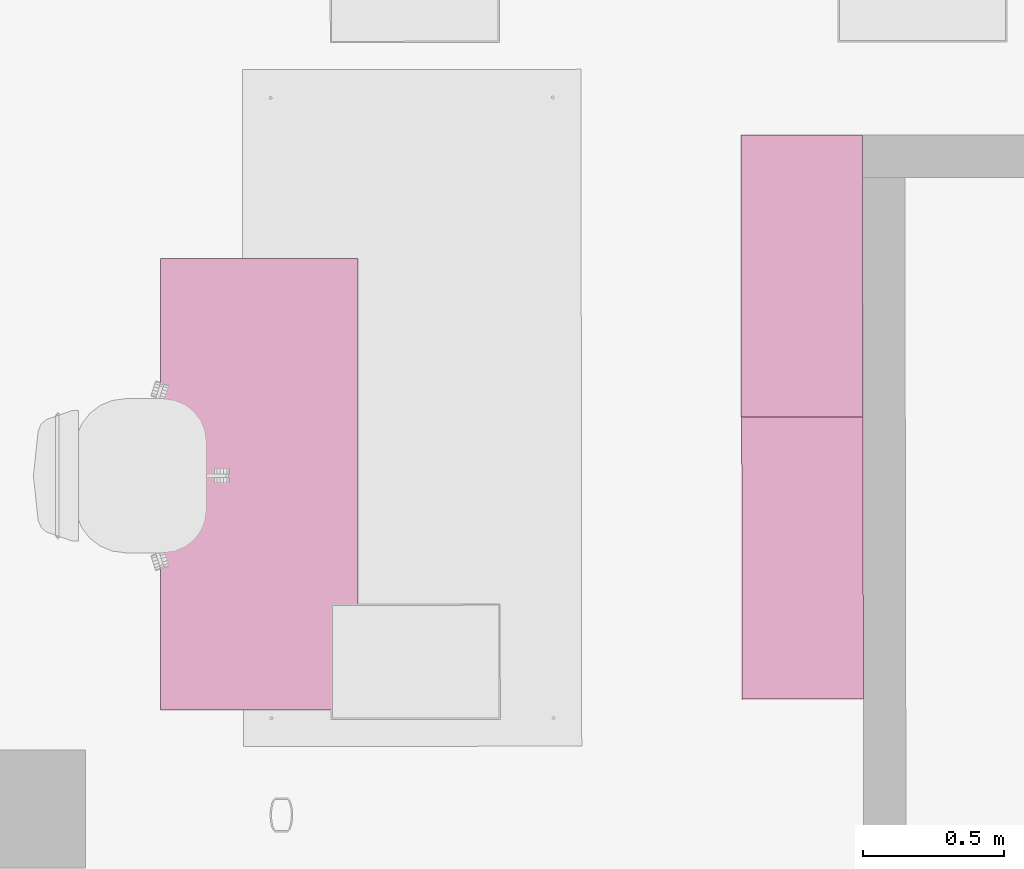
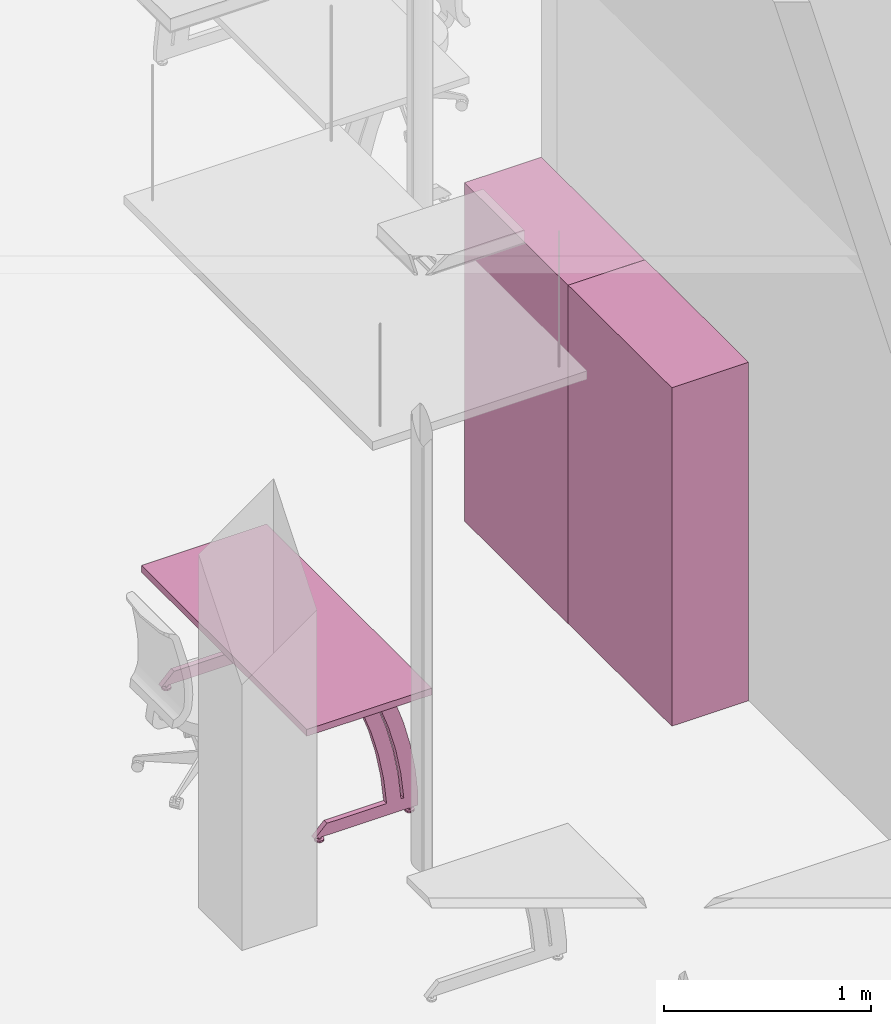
# One storey, part 119 of 128: 3 furnishings.
"""IFC2X3 building model written with IfcOpenShell, lengths in metres."""

from ifc_helpers import new_model, entity, si_unit, converted_unit, derived_unit, direction, frame, origin, origin_2d_with_axis, place, context, subcontext, project, spatial, rectangle, extrude, faceted_brep, source, transform, mapped, material, type_object, type_shapes, element, save


model = new_model("IFC2X3")

# Units and contexts
model_context = context("Model", 3, precision=1e-05, world=origin(), true_north=direction((6.123031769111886e-17, 1.0)))
body_context = subcontext(model_context, "Body", "Model", "MODEL_VIEW")
ifc_project = project(units=[si_unit("LENGTHUNIT", "METRE"), si_unit("AREAUNIT", "SQUARE_METRE"), converted_unit("PLANEANGLEUNIT", "DEGREE", entity("IfcPlaneAngleMeasure", 0.017453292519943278), si_unit("PLANEANGLEUNIT", "RADIAN"), dimensions=[0, 0, 0, 0, 0, 0, 0]), derived_unit("THERMALTRANSMITTANCEUNIT", [(si_unit("MASSUNIT", "GRAM", prefix="KILO"), 1), (si_unit("THERMODYNAMICTEMPERATUREUNIT", "KELVIN"), -1), (si_unit("TIMEUNIT", "SECOND"), -3)])], contexts=[model_context])

# Site, building, storey
site_placement = place(None, origin())
site = spatial("IfcSite", under=ifc_project, at=site_placement, Name="Default", CompositionType="ELEMENT")
building_placement = place(site_placement, origin())
building = spatial("IfcBuilding", under=site, at=building_placement, CompositionType="ELEMENT")
storey_placement = place(building_placement, origin())
storey = spatial("IfcBuildingStorey", under=building, at=storey_placement, Name="00_RDC CAF", CompositionType="ELEMENT", Elevation=2.4982504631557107e-13)

# Furnishings
ifc_material = material(Name="ARC - Mo - Blanc")
furniture_type_1 = type_object("IfcFurnitureType", Name="Mo_Armoire_Porte_Coulissante:Mo_Armoire_Haute_1000x430x2000mm", AssemblyPlace="NOTDEFINED", material=ifc_material)
shared_shape_1 = source(origin(), body_context, "Body", "SweptSolid", [
    extrude(rectangle(XDim=0.9999999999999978, YDim=0.4300000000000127, at=origin_2d_with_axis()), frame((0.04470032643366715, -0.2150000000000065, 0.0), z_axis=(0.0, 0.0, 1.0), x_axis=(-1.0, 0.0, 0.0)), (0.0, 0.0, 1.0), 2.0),
])
type_shapes(furniture_type_1, [shared_shape_1])
for number, where, z_axis, x_axis, name in (
    (1, (45.680403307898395, 138.46699864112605, 0.0), (0.0, 0.0, 1.0), (0.0, -1.0, 0.0), "Mo_Armoire_Porte_Coulissante:Mo_Armoire_Haute_1000x430x2000mm"),
    (2, (45.68290519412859, 137.46700226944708, 0.0), (0.0, 0.0, 1.0), (0.0017191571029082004, -0.999998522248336, 0.0), "Mo_Armoire_Porte_Coulissante:Mo_Armoire_Haute_1000x430x2000mm"),
):
    element("IfcFurnishingElement", number, at=place(storey_placement, frame(where, z_axis=z_axis, x_axis=x_axis)), inside=storey, type_object=furniture_type_1, material=ifc_material, Name=name, ObjectType="Mo_Armoire_Porte_Coulissante:Mo_Armoire_Haute_1000x430x2000mm", context=body_context, shape_type="MappedRepresentation", body=[
        mapped(shared_shape_1, transform((0.0, 0.0, 0.0), scale=1.0)),
    ])
furniture_type_2 = type_object("IfcFurnitureType", Name="Mo_Bureau:Mo_Bureau_1600x700mm", AssemblyPlace="NOTDEFINED", material=ifc_material)
shared_shape_2 = source(origin(), body_context, "Body", "Brep", [
    faceted_brep([(0.0599999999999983, -0.5962325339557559, 0.0), (0.03622358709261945, -0.5885071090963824, 0.0), (0.040764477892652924, -0.5822571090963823, 0.0), (0.04530536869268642, -0.5760071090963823, 0.0), (0.0526526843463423, -0.5736198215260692, 0.0), (0.059999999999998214, -0.571232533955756, 0.0), (0.06734731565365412, -0.573619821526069, 0.0), (0.036223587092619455, -0.596232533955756, 0.0), (0.03622358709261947, -0.6039579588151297, 0.0), (0.040764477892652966, -0.6102079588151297, 0.0), (0.045305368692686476, -0.6164579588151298, 0.0), (0.052652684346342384, -0.6188452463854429, 0.0), (0.0599999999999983, -0.621232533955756, 0.0), (0.07469463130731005, -0.5760071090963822, 0.0), (0.07923552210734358, -0.5822571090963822, 0.0), (0.0837764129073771, -0.5885071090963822, 0.0), (0.08377641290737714, -0.5962325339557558, 0.0), (0.06734731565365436, -0.6188452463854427, 0.0), (0.07469463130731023, -0.6164579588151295, 0.0), (0.07923552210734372, -0.6102079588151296, 0.0), (0.08377641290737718, -0.6039579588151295, 0.0), (0.0599999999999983, -0.5962325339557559, 0.024999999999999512), (0.05999999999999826, -0.5862325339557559, 0.024999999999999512), (0.05133974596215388, -0.5912325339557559, 0.024999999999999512), (0.05133974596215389, -0.6012325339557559, 0.024999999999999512), (0.0599999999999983, -0.606232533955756, 0.024999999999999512), (0.06866025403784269, -0.5912325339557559, 0.024999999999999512), (0.06866025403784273, -0.6012325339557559, 0.024999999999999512), (0.05133974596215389, -0.6012325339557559, 0.01000000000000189), (0.0599999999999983, -0.606232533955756, 0.01000000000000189), (0.05133974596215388, -0.5912325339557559, 0.01000000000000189), (0.05999999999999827, -0.5862325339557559, 0.01000000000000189), (0.06866025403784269, -0.5912325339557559, 0.01000000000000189), (0.06866025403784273, -0.6012325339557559, 0.01000000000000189), (0.05999999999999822, -0.571232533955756, 0.01000000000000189), (0.05554606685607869, -0.57267970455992, 0.01000000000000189), (0.05109213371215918, -0.574126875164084, 0.01000000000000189), (0.04530536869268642, -0.5760071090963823, 0.01000000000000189), (0.06734731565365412, -0.573619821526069, 0.01000000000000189), (0.07469463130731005, -0.5760071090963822, 0.01000000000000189), (0.07923552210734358, -0.5822571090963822, 0.01000000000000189), (0.0837764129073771, -0.5885071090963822, 0.01000000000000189), (0.08377641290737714, -0.5962325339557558, 0.01000000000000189), (0.08377641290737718, -0.6039579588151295, 0.01000000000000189), (0.07923552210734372, -0.6102079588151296, 0.01000000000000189), (0.07469463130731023, -0.6164579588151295, 0.01000000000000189), (0.06890786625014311, -0.6183381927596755, 0.01000000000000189), (0.06445393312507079, -0.6197853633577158, 0.01000000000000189), (0.0599999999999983, -0.621232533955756, 0.01000000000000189), (0.052652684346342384, -0.6188452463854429, 0.01000000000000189), (0.045305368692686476, -0.6164579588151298, 0.01000000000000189), (0.03622358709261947, -0.6039579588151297, 0.01000000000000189), (0.04076447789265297, -0.6102079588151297, 0.01000000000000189), (0.04076447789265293, -0.5822571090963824, 0.01000000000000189), (0.03622358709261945, -0.5885071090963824, 0.01000000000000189), (0.03622358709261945, -0.5962325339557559, 0.01000000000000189)], [[[0, 1, 2]], [[0, 2, 3]], [[0, 3, 4]], [[0, 4, 5]], [[0, 5, 6]], [[0, 7, 1]], [[0, 8, 7]], [[0, 9, 8]], [[0, 10, 9]], [[0, 11, 10]], [[0, 12, 11]], [[0, 6, 13]], [[0, 13, 14]], [[0, 14, 15]], [[0, 15, 16]], [[0, 17, 12]], [[0, 18, 17]], [[0, 19, 18]], [[0, 20, 19]], [[0, 16, 20]], [[21, 22, 23]], [[23, 24, 21]], [[24, 25, 21]], [[21, 26, 22]], [[25, 27, 21]], [[26, 21, 27]], [[25, 24, 28, 29]], [[24, 23, 30, 28]], [[23, 22, 31, 30]], [[22, 26, 32, 31]], [[26, 27, 33, 32]], [[27, 25, 29, 33]], [[31, 34, 35]], [[31, 35, 36]], [[31, 36, 37]], [[31, 37, 30]], [[31, 38, 34]], [[31, 39, 38]], [[32, 39, 31]], [[32, 40, 39]], [[32, 41, 40]], [[32, 42, 41]], [[32, 43, 42]], [[32, 33, 43]], [[33, 44, 43]], [[33, 45, 44]], [[33, 29, 45]], [[29, 46, 45]], [[29, 47, 46]], [[29, 48, 47]], [[29, 49, 48]], [[29, 50, 49]], [[29, 28, 50]], [[30, 51, 28]], [[28, 51, 52]], [[28, 52, 50]], [[30, 37, 53]], [[30, 53, 54]], [[30, 54, 55]], [[30, 55, 51]], [[11, 12, 48, 49, 50, 10]], [[8, 9, 10, 50, 52, 51]], [[7, 8, 51, 55, 54, 1]], [[3, 37, 36, 35, 34, 5, 4]], [[54, 53, 37, 3, 2, 1]], [[6, 5, 34, 38, 39, 13]], [[15, 14, 13, 39, 40, 41]], [[16, 15, 41, 42, 43, 20]], [[18, 45, 46, 47, 48, 12, 17]], [[43, 44, 45, 18, 19, 20]]]),
    faceted_brep([(0.0599999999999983, -0.09132706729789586, 0.0), (0.03622358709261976, -0.08360164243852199, 0.0), (0.04076447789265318, -0.07735164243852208, 0.0), (0.045305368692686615, -0.07110164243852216, 0.0), (0.05265268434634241, -0.06871435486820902, 0.0), (0.059999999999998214, -0.06632706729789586, 0.0), (0.06734731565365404, -0.06871435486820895, 0.0), (0.03622358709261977, -0.09132706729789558, 0.0), (0.03622358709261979, -0.09905249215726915, 0.0), (0.040764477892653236, -0.10530249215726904, 0.0), (0.045305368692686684, -0.11155249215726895, 0.0), (0.05265268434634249, -0.11393977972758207, 0.0), (0.0599999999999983, -0.11632706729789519, 0.0), (0.07469463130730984, -0.07110164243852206, 0.0), (0.0792355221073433, -0.07735164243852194, 0.0), (0.08377641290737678, -0.08360164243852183, 0.0), (0.08377641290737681, -0.09132706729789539, 0.0), (0.06734731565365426, -0.11393977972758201, 0.0), (0.07469463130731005, -0.11155249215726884, 0.0), (0.07923552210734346, -0.1053024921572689, 0.0), (0.08377641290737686, -0.09905249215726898, 0.0), (0.0599999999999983, -0.09132706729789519, 0.024999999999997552), (0.05999999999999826, -0.08132706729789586, 0.024999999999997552), (0.051339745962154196, -0.08632706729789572, 0.024999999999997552), (0.05133974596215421, -0.09632706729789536, 0.024999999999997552), (0.0599999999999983, -0.10132706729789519, 0.024999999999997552), (0.06866025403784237, -0.08632706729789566, 0.024999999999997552), (0.06866025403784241, -0.09632706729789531, 0.024999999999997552), (0.05133974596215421, -0.09632706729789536, 0.009999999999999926), (0.0599999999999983, -0.10132706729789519, 0.009999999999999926), (0.051339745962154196, -0.08632706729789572, 0.009999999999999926), (0.05999999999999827, -0.08132706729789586, 0.009999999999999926), (0.06866025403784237, -0.08632706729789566, 0.009999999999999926), (0.06866025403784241, -0.09632706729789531, 0.009999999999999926), (0.059999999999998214, -0.06632706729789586, 0.009999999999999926), (0.05554606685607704, -0.06777423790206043, 0.009999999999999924), (0.05109213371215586, -0.06922140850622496, 0.009999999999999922), (0.045305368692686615, -0.07110164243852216, 0.009999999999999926), (0.06734731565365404, -0.06871435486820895, 0.009999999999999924), (0.07469463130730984, -0.07110164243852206, 0.009999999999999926), (0.0792355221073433, -0.07735164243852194, 0.009999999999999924), (0.08377641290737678, -0.08360164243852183, 0.009999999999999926), (0.08377641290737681, -0.0913270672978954, 0.009999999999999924), (0.08377641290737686, -0.09905249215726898, 0.009999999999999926), (0.07923552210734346, -0.1053024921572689, 0.009999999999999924), (0.07469463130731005, -0.11155249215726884, 0.009999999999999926), (0.06890786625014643, -0.11343272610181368, 0.009999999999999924), (0.06445393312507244, -0.11487989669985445, 0.009999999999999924), (0.0599999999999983, -0.11632706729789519, 0.009999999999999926), (0.05265268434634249, -0.11393977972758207, 0.009999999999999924), (0.045305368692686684, -0.11155249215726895, 0.009999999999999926), (0.03622358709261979, -0.09905249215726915, 0.009999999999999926), (0.040764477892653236, -0.10530249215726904, 0.009999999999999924), (0.04076447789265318, -0.07735164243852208, 0.009999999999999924), (0.03622358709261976, -0.08360164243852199, 0.009999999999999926), (0.03622358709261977, -0.09132706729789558, 0.009999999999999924)], [[[0, 1, 2]], [[0, 2, 3]], [[0, 3, 4]], [[0, 4, 5]], [[0, 5, 6]], [[0, 7, 1]], [[0, 8, 7]], [[0, 9, 8]], [[0, 10, 9]], [[0, 11, 10]], [[0, 12, 11]], [[0, 6, 13]], [[0, 13, 14]], [[0, 14, 15]], [[0, 15, 16]], [[0, 17, 12]], [[0, 18, 17]], [[0, 19, 18]], [[0, 20, 19]], [[0, 16, 20]], [[21, 22, 23]], [[23, 24, 21]], [[24, 25, 21]], [[21, 26, 22]], [[25, 27, 21]], [[26, 21, 27]], [[25, 24, 28, 29]], [[24, 23, 30, 28]], [[23, 22, 31, 30]], [[22, 26, 32, 31]], [[26, 27, 33, 32]], [[27, 25, 29, 33]], [[31, 34, 35]], [[31, 35, 36]], [[31, 36, 37]], [[31, 37, 30]], [[31, 38, 34]], [[31, 39, 38]], [[32, 39, 31]], [[32, 40, 39]], [[32, 41, 40]], [[32, 42, 41]], [[32, 43, 42]], [[32, 33, 43]], [[33, 44, 43]], [[33, 45, 44]], [[33, 29, 45]], [[29, 46, 45]], [[29, 47, 46]], [[29, 48, 47]], [[29, 49, 48]], [[29, 50, 49]], [[29, 28, 50]], [[30, 51, 28]], [[28, 51, 52]], [[28, 52, 50]], [[30, 37, 53]], [[30, 53, 54]], [[30, 54, 55]], [[30, 55, 51]], [[11, 12, 48, 49, 50, 10]], [[8, 9, 10, 50, 52, 51]], [[7, 8, 51, 55, 54, 1]], [[3, 37, 36, 35, 34, 5, 4]], [[54, 53, 37, 3, 2, 1]], [[6, 5, 34, 38, 39, 13]], [[15, 14, 13, 39, 40, 41]], [[16, 15, 41, 42, 43, 20]], [[18, 45, 46, 47, 48, 12, 17]], [[43, 44, 45, 18, 19, 20]]]),
    faceted_brep([(0.0449999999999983, -0.22742160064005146, 0.09499999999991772), (0.0449999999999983, -0.24409269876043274, 0.24614112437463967), (0.0449999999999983, -0.2727144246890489, 0.395480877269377), (0.0449999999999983, -0.3131059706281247, 0.5420758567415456), (0.0449999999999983, -0.36501217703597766, 0.6849999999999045), (0.0449999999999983, -0.27887211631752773, 0.684999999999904), (0.0449999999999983, -0.22919246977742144, 0.5416912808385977), (0.0449999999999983, -0.19055436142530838, 0.39501969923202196), (0.0449999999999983, -0.1631815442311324, 0.24583462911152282), (0.0449999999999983, -0.14723253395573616, 0.09499999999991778), (0.07499999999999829, -0.3650121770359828, 0.6849999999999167), (0.07499999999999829, -0.3131059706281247, 0.5420758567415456), (0.07499999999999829, -0.2727144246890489, 0.395480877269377), (0.07499999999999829, -0.24409269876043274, 0.24614112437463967), (0.07499999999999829, -0.22742160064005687, 0.09499999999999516), (0.07499999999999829, -0.14723253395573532, 0.09499999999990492), (0.07499999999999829, -0.1631815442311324, 0.24583462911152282), (0.07499999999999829, -0.19055436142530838, 0.39501969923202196), (0.07499999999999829, -0.22919246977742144, 0.5416912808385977), (0.07499999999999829, -0.278872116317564, 0.6849999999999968)], [[[0, 1, 2, 3, 4, 5, 6, 7, 8, 9]], [[10, 11, 12, 13, 14, 15, 16, 17, 18, 19]], [[10, 19, 5, 4]], [[3, 11, 10, 4]], [[2, 12, 11, 3]], [[0, 14, 13, 1]], [[12, 2, 1, 13]], [[15, 14, 0, 9]], [[8, 7, 17, 16]], [[15, 9, 8, 16]], [[6, 5, 19, 18]], [[6, 18, 17, 7]]]),
    faceted_brep([(0.0449999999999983, -0.13142160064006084, 0.09500000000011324), (0.0449999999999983, -0.14809269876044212, 0.24614112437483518), (0.0449999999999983, -0.1767144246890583, 0.3954808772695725), (0.0449999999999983, -0.21710597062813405, 0.5420758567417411), (0.0449999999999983, -0.269012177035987, 0.6850000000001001), (0.0449999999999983, -0.18287211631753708, 0.6850000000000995), (0.0449999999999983, -0.13319246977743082, 0.5416912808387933), (0.0449999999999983, -0.09455436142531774, 0.39501969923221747), (0.0449999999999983, -0.06718154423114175, 0.24583462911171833), (0.0449999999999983, -0.05123253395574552, 0.0950000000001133), (0.07499999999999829, -0.2690121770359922, 0.6850000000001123), (0.07499999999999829, -0.21710597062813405, 0.5420758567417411), (0.07499999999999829, -0.1767144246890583, 0.3954808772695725), (0.07499999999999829, -0.14809269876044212, 0.24614112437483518), (0.07499999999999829, -0.13142160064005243, 0.09499999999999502), (0.07499999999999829, -0.0512325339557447, 0.09500000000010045), (0.07499999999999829, -0.06718154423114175, 0.24583462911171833), (0.07499999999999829, -0.09455436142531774, 0.39501969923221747), (0.07499999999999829, -0.13319246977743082, 0.5416912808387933), (0.07499999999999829, -0.1828721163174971, 0.684999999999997)], [[[0, 1, 2, 3, 4, 5, 6, 7, 8, 9]], [[10, 11, 12, 13, 14, 15, 16, 17, 18, 19]], [[10, 19, 5, 4]], [[3, 11, 10, 4]], [[2, 12, 11, 3]], [[0, 14, 13, 1]], [[12, 2, 1, 13]], [[15, 14, 0, 9]], [[8, 7, 17, 16]], [[15, 9, 8, 16]], [[6, 5, 19, 18]], [[6, 18, 17, 7]]]),
    faceted_brep([(0.0449999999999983, -0.05123253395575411, 0.024999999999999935), (0.0449999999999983, -0.6312325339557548, 0.024999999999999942), (0.0449999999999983, -0.5612325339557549, 0.09499999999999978), (0.0449999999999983, -0.05123253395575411, 0.09499999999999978), (0.07499999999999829, -0.05123253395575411, 0.024999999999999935), (0.07499999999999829, -0.05123253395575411, 0.09499999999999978), (0.07499999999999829, -0.5612325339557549, 0.09499999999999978), (0.07499999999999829, -0.6312325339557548, 0.024999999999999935)], [[[0, 1, 2, 3]], [[4, 5, 6, 7]], [[5, 4, 0, 3]], [[6, 5, 3, 2]], [[4, 7, 1, 0]], [[7, 6, 2, 1]]]),
    faceted_brep([(1.5399999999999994, -0.5962325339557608, 0.0), (1.5162235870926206, -0.5885071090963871, 0.0), (1.5207644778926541, -0.5822571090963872, 0.0), (1.5253053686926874, -0.5760071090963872, 0.0), (1.5326526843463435, -0.5736198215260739, 0.0), (1.5399999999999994, -0.5712325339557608, 0.0), (1.5473473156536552, -0.5736198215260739, 0.0), (1.5162235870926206, -0.5962325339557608, 0.0), (1.5162235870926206, -0.6039579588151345, 0.0), (1.5207644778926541, -0.6102079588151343, 0.0), (1.5253053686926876, -0.6164579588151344, 0.0), (1.5326526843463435, -0.6188452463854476, 0.0), (1.5399999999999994, -0.6212325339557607, 0.0), (1.5546946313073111, -0.576007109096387, 0.0), (1.5592355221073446, -0.5822571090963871, 0.0), (1.5637764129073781, -0.5885071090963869, 0.0), (1.5637764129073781, -0.5962325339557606, 0.0), (1.5473473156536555, -0.6188452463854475, 0.0), (1.5546946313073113, -0.6164579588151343, 0.0), (1.5592355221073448, -0.6102079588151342, 0.0), (1.5637764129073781, -0.6039579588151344, 0.0), (1.5399999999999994, -0.5962325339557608, 0.024999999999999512), (1.5399999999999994, -0.5862325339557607, 0.024999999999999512), (1.531339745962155, -0.5912325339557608, 0.024999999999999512), (1.531339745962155, -0.6012325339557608, 0.024999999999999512), (1.5399999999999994, -0.6062325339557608, 0.024999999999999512), (1.548660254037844, -0.5912325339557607, 0.024999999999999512), (1.548660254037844, -0.6012325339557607, 0.024999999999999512), (1.531339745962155, -0.6012325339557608, 0.01000000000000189), (1.5399999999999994, -0.6062325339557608, 0.01000000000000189), (1.531339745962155, -0.5912325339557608, 0.01000000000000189), (1.5399999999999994, -0.5862325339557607, 0.01000000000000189), (1.548660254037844, -0.5912325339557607, 0.01000000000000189), (1.548660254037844, -0.6012325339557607, 0.01000000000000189), (1.5399999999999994, -0.5712325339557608, 0.01000000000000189), (1.5355460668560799, -0.5726797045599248, 0.01000000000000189), (1.5310921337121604, -0.5741268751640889, 0.01000000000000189), (1.5253053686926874, -0.5760071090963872, 0.01000000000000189), (1.5473473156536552, -0.5736198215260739, 0.01000000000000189), (1.5546946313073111, -0.576007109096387, 0.01000000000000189), (1.5592355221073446, -0.5822571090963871, 0.01000000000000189), (1.5637764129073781, -0.5885071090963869, 0.01000000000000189), (1.5637764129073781, -0.5962325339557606, 0.01000000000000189), (1.5637764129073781, -0.6039579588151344, 0.01000000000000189), (1.5592355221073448, -0.6102079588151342, 0.01000000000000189), (1.5546946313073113, -0.6164579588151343, 0.01000000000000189), (1.5489078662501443, -0.6183381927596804, 0.01000000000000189), (1.544453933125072, -0.6197853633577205, 0.01000000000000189), (1.5399999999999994, -0.6212325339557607, 0.01000000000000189), (1.5326526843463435, -0.6188452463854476, 0.01000000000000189), (1.5253053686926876, -0.6164579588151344, 0.01000000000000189), (1.5162235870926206, -0.6039579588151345, 0.01000000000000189), (1.5207644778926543, -0.6102079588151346, 0.01000000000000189), (1.5207644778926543, -0.5822571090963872, 0.01000000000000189), (1.5162235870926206, -0.5885071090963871, 0.01000000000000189), (1.5162235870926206, -0.5962325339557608, 0.01000000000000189)], [[[0, 1, 2]], [[0, 2, 3]], [[0, 3, 4]], [[0, 4, 5]], [[0, 5, 6]], [[0, 7, 1]], [[0, 8, 7]], [[0, 9, 8]], [[0, 10, 9]], [[0, 11, 10]], [[0, 12, 11]], [[0, 6, 13]], [[0, 13, 14]], [[0, 14, 15]], [[0, 15, 16]], [[0, 17, 12]], [[0, 18, 17]], [[0, 19, 18]], [[0, 20, 19]], [[0, 16, 20]], [[21, 22, 23]], [[23, 24, 21]], [[24, 25, 21]], [[21, 26, 22]], [[25, 27, 21]], [[26, 21, 27]], [[25, 24, 28, 29]], [[24, 23, 30, 28]], [[23, 22, 31, 30]], [[22, 26, 32, 31]], [[26, 27, 33, 32]], [[27, 25, 29, 33]], [[31, 34, 35]], [[31, 35, 36]], [[31, 36, 37]], [[31, 37, 30]], [[31, 38, 34]], [[31, 39, 38]], [[32, 39, 31]], [[32, 40, 39]], [[32, 41, 40]], [[32, 42, 41]], [[32, 43, 42]], [[32, 33, 43]], [[33, 44, 43]], [[33, 45, 44]], [[33, 29, 45]], [[29, 46, 45]], [[29, 47, 46]], [[29, 48, 47]], [[29, 49, 48]], [[29, 50, 49]], [[29, 28, 50]], [[30, 51, 28]], [[28, 51, 52]], [[28, 52, 50]], [[30, 37, 53]], [[30, 53, 54]], [[30, 54, 55]], [[30, 55, 51]], [[11, 12, 48, 49, 50, 10]], [[8, 9, 10, 50, 52, 51]], [[7, 8, 51, 55, 54, 1]], [[3, 37, 36, 35, 34, 5, 4]], [[54, 53, 37, 3, 2, 1]], [[6, 5, 34, 38, 39, 13]], [[15, 14, 13, 39, 40, 41]], [[16, 15, 41, 42, 43, 20]], [[18, 45, 46, 47, 48, 12, 17]], [[43, 44, 45, 18, 19, 20]]]),
    faceted_brep([(1.5399999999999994, -0.09132706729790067, 0.0), (1.5162235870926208, -0.08360164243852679, 0.0), (1.5207644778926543, -0.07735164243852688, 0.0), (1.5253053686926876, -0.07110164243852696, 0.0), (1.5326526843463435, -0.06871435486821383, 0.0), (1.5399999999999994, -0.06632706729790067, 0.0), (1.5473473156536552, -0.06871435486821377, 0.0), (1.5162235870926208, -0.09132706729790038, 0.0), (1.5162235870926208, -0.09905249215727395, 0.0), (1.5207644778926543, -0.10530249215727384, 0.0), (1.5253053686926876, -0.11155249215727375, 0.0), (1.5326526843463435, -0.11393977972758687, 0.0), (1.5399999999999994, -0.11632706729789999, 0.0), (1.554694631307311, -0.07110164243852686, 0.0), (1.5592355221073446, -0.07735164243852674, 0.0), (1.563776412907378, -0.08360164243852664, 0.0), (1.563776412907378, -0.09132706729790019, 0.0), (1.5473473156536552, -0.11393977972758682, 0.0), (1.5546946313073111, -0.11155249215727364, 0.0), (1.5592355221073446, -0.10530249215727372, 0.0), (1.563776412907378, -0.09905249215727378, 0.0), (1.5399999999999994, -0.0913270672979, 0.024999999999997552), (1.5399999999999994, -0.08132706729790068, 0.024999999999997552), (1.5313397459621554, -0.08632706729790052, 0.024999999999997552), (1.5313397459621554, -0.09632706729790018, 0.024999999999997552), (1.5399999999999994, -0.10132706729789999, 0.024999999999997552), (1.5486602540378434, -0.08632706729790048, 0.024999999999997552), (1.5486602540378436, -0.09632706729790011, 0.024999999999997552), (1.5313397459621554, -0.09632706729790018, 0.009999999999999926), (1.5399999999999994, -0.10132706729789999, 0.009999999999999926), (1.5313397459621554, -0.08632706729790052, 0.009999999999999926), (1.5399999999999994, -0.08132706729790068, 0.009999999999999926), (1.5486602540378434, -0.08632706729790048, 0.009999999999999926), (1.5486602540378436, -0.09632706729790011, 0.009999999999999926), (1.5399999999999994, -0.06632706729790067, 0.009999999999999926), (1.5355460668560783, -0.06777423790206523, 0.009999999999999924), (1.5310921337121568, -0.06922140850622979, 0.009999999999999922), (1.5253053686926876, -0.07110164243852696, 0.009999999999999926), (1.5473473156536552, -0.06871435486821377, 0.009999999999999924), (1.554694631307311, -0.07110164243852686, 0.009999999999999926), (1.5592355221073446, -0.07735164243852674, 0.009999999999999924), (1.563776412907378, -0.08360164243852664, 0.009999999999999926), (1.563776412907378, -0.09132706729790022, 0.009999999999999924), (1.563776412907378, -0.09905249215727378, 0.009999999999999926), (1.5592355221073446, -0.10530249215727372, 0.009999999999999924), (1.5546946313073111, -0.11155249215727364, 0.009999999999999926), (1.5489078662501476, -0.11343272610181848, 0.009999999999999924), (1.5444539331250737, -0.11487989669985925, 0.009999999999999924), (1.5399999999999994, -0.11632706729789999, 0.009999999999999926), (1.5326526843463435, -0.11393977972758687, 0.009999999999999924), (1.5253053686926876, -0.11155249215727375, 0.009999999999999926), (1.5162235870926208, -0.09905249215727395, 0.009999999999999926), (1.5207644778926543, -0.10530249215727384, 0.009999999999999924), (1.5207644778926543, -0.07735164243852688, 0.009999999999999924), (1.5162235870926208, -0.08360164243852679, 0.009999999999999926), (1.5162235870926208, -0.09132706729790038, 0.009999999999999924)], [[[0, 1, 2]], [[0, 2, 3]], [[0, 3, 4]], [[0, 4, 5]], [[0, 5, 6]], [[0, 7, 1]], [[0, 8, 7]], [[0, 9, 8]], [[0, 10, 9]], [[0, 11, 10]], [[0, 12, 11]], [[0, 6, 13]], [[0, 13, 14]], [[0, 14, 15]], [[0, 15, 16]], [[0, 17, 12]], [[0, 18, 17]], [[0, 19, 18]], [[0, 20, 19]], [[0, 16, 20]], [[21, 22, 23]], [[23, 24, 21]], [[24, 25, 21]], [[21, 26, 22]], [[25, 27, 21]], [[26, 21, 27]], [[25, 24, 28, 29]], [[24, 23, 30, 28]], [[23, 22, 31, 30]], [[22, 26, 32, 31]], [[26, 27, 33, 32]], [[27, 25, 29, 33]], [[31, 34, 35]], [[31, 35, 36]], [[31, 36, 37]], [[31, 37, 30]], [[31, 38, 34]], [[31, 39, 38]], [[32, 39, 31]], [[32, 40, 39]], [[32, 41, 40]], [[32, 42, 41]], [[32, 43, 42]], [[32, 33, 43]], [[33, 44, 43]], [[33, 45, 44]], [[33, 29, 45]], [[29, 46, 45]], [[29, 47, 46]], [[29, 48, 47]], [[29, 49, 48]], [[29, 50, 49]], [[29, 28, 50]], [[30, 51, 28]], [[28, 51, 52]], [[28, 52, 50]], [[30, 37, 53]], [[30, 53, 54]], [[30, 54, 55]], [[30, 55, 51]], [[11, 12, 48, 49, 50, 10]], [[8, 9, 10, 50, 52, 51]], [[7, 8, 51, 55, 54, 1]], [[3, 37, 36, 35, 34, 5, 4]], [[54, 53, 37, 3, 2, 1]], [[6, 5, 34, 38, 39, 13]], [[15, 14, 13, 39, 40, 41]], [[16, 15, 41, 42, 43, 20]], [[18, 45, 46, 47, 48, 12, 17]], [[43, 44, 45, 18, 19, 20]]]),
    faceted_brep([(1.5249999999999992, -0.22742160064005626, 0.09499999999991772), (1.5249999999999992, -0.24409269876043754, 0.24614112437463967), (1.5249999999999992, -0.2727144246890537, 0.395480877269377), (1.5249999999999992, -0.3131059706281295, 0.5420758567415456), (1.5249999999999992, -0.3650121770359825, 0.6849999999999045), (1.5249999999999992, -0.2788721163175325, 0.684999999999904), (1.5249999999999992, -0.22919246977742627, 0.5416912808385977), (1.5249999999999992, -0.19055436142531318, 0.39501969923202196), (1.5249999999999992, -0.1631815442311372, 0.24583462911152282), (1.5249999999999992, -0.14723253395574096, 0.09499999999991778), (1.5549999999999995, -0.3650121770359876, 0.6849999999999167), (1.5549999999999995, -0.3131059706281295, 0.5420758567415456), (1.5549999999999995, -0.2727144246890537, 0.395480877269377), (1.5549999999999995, -0.24409269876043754, 0.24614112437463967), (1.5549999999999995, -0.22742160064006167, 0.09499999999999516), (1.5549999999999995, -0.14723253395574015, 0.09499999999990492), (1.5549999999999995, -0.1631815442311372, 0.24583462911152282), (1.5549999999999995, -0.19055436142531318, 0.39501969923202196), (1.5549999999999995, -0.22919246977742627, 0.5416912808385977), (1.5549999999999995, -0.27887211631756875, 0.6849999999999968)], [[[0, 1, 2, 3, 4, 5, 6, 7, 8, 9]], [[10, 11, 12, 13, 14, 15, 16, 17, 18, 19]], [[10, 19, 5, 4]], [[3, 11, 10, 4]], [[2, 12, 11, 3]], [[0, 14, 13, 1]], [[12, 2, 1, 13]], [[15, 14, 0, 9]], [[8, 7, 17, 16]], [[15, 9, 8, 16]], [[6, 5, 19, 18]], [[6, 18, 17, 7]]]),
    faceted_brep([(1.5249999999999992, -0.13142160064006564, 0.09500000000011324), (1.5249999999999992, -0.14809269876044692, 0.24614112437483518), (1.5249999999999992, -0.1767144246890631, 0.3954808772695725), (1.5249999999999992, -0.21710597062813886, 0.5420758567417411), (1.5249999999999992, -0.26901217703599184, 0.6850000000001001), (1.5249999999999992, -0.18287211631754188, 0.6850000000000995), (1.5249999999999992, -0.13319246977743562, 0.5416912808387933), (1.5249999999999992, -0.09455436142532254, 0.39501969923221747), (1.5249999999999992, -0.06718154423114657, 0.24583462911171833), (1.5249999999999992, -0.05123253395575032, 0.0950000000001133), (1.5549999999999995, -0.269012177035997, 0.6850000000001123), (1.5549999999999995, -0.21710597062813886, 0.5420758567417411), (1.5549999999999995, -0.1767144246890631, 0.3954808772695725), (1.5549999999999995, -0.14809269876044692, 0.24614112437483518), (1.5549999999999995, -0.13142160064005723, 0.09499999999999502), (1.5549999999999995, -0.05123253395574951, 0.09500000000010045), (1.5549999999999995, -0.06718154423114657, 0.24583462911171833), (1.5549999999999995, -0.09455436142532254, 0.39501969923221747), (1.5549999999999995, -0.13319246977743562, 0.5416912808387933), (1.5549999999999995, -0.18287211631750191, 0.684999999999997)], [[[0, 1, 2, 3, 4, 5, 6, 7, 8, 9]], [[10, 11, 12, 13, 14, 15, 16, 17, 18, 19]], [[10, 19, 5, 4]], [[3, 11, 10, 4]], [[2, 12, 11, 3]], [[0, 14, 13, 1]], [[12, 2, 1, 13]], [[15, 14, 0, 9]], [[8, 7, 17, 16]], [[15, 9, 8, 16]], [[6, 5, 19, 18]], [[6, 18, 17, 7]]]),
    faceted_brep([(1.5249999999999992, -0.05123253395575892, 0.024999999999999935), (1.5249999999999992, -0.6312325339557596, 0.024999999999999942), (1.5249999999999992, -0.5612325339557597, 0.09499999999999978), (1.5249999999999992, -0.05123253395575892, 0.09499999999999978), (1.5549999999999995, -0.05123253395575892, 0.024999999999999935), (1.5549999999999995, -0.05123253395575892, 0.09499999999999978), (1.5549999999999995, -0.5612325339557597, 0.09499999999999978), (1.5549999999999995, -0.6312325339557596, 0.024999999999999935)], [[[0, 1, 2, 3]], [[4, 5, 6, 7]], [[5, 4, 0, 3]], [[6, 5, 3, 2]], [[4, 7, 1, 0]], [[7, 6, 2, 1]]]),
    faceted_brep([(0.0, -0.6999999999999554, 0.685), (0.0, 0.0, 0.685), (1.599999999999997, 0.0, 0.684999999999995), (1.599999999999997, -0.6999999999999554, 0.684999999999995), (0.0, -0.6999999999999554, 0.7250000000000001), (1.599999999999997, -0.6999999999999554, 0.7249999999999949), (1.599999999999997, 0.0, 0.7249999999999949), (0.0, 0.0, 0.7250000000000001)], [[[0, 1, 2, 3]], [[4, 5, 6, 7]], [[5, 4, 0, 3]], [[6, 5, 3, 2]], [[7, 6, 2, 1]], [[4, 7, 1, 0]]]),
])
type_shapes(furniture_type_2, [shared_shape_2])
furnishing_placement = place(storey_placement, frame((43.891744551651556, 138.48399768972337, 0.0), z_axis=(0.0, 0.0, 1.0), x_axis=(0.0, -1.0, 0.0)))
element("IfcFurnishingElement", 3, at=furnishing_placement, inside=storey, type_object=furniture_type_2, material=ifc_material, Name="Mo_Bureau:Mo_Bureau_1600x700mm", ObjectType="Mo_Bureau:Mo_Bureau_1600x700mm", context=body_context, shape_type="MappedRepresentation", body=[
    mapped(shared_shape_2, transform((0.0, 0.0, 0.0), scale=1.0)),
])

save(model, "model.ifc")
